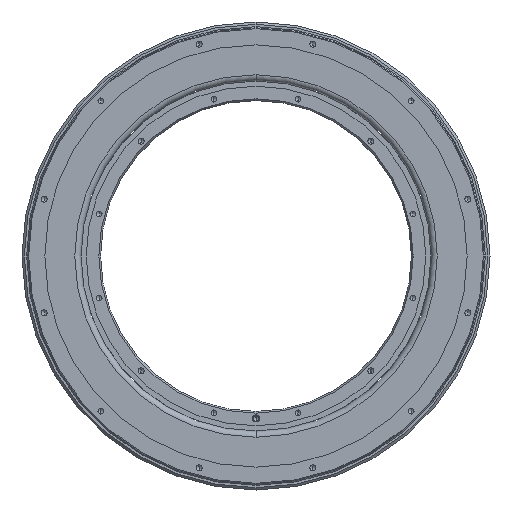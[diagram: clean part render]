
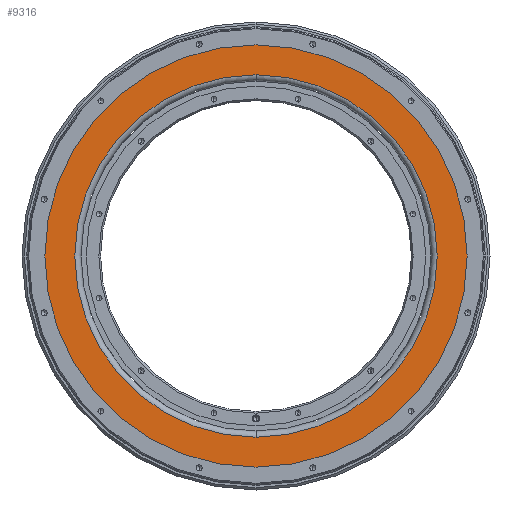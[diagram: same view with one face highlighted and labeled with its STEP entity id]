
A CAD part, front view. The second image highlights one B-rep face of the part: STEP entity #9316.
In plain terms, the highlighted planar face has unit normal (0, -1, 0).
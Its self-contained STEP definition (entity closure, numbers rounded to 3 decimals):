
#18 = CARTESIAN_POINT ( 'NONE',  ( -180., 3., 0. ) ) ;
#218 = EDGE_LOOP ( 'NONE', ( #8005, #7068 ) ) ;
#273 = EDGE_CURVE ( 'NONE', #4687, #936, #8484, .T. ) ;
#323 = DIRECTION ( 'NONE',  ( 0., 0., 1. ) ) ;
#350 = CARTESIAN_POINT ( 'NONE',  ( 0., 3., 0. ) ) ;
#728 = ORIENTED_EDGE ( 'NONE', *, *, #3459, .T. ) ;
#936 = VERTEX_POINT ( 'NONE', #994 ) ;
#994 = CARTESIAN_POINT ( 'NONE',  ( 0., 3., -180. ) ) ;
#1471 = CARTESIAN_POINT ( 'NONE',  ( 0., 3., -154.5 ) ) ;
#1827 = EDGE_CURVE ( 'NONE', #4920, #8810, #6926, .T. ) ;
#2039 = EDGE_LOOP ( 'NONE', ( #728, #8305 ) ) ;
#2217 = CIRCLE ( 'NONE', #7129, 154.5 ) ;
#2637 = CARTESIAN_POINT ( 'NONE',  ( 0., 3., 0. ) ) ;
#2671 = DIRECTION ( 'NONE',  ( 0., -1., 0. ) ) ;
#3459 = EDGE_CURVE ( 'NONE', #936, #4687, #7703, .T. ) ;
#3710 = AXIS2_PLACEMENT_3D ( 'NONE', #9392, #6480, #7919 ) ;
#4148 = FACE_BOUND ( 'NONE', #218, .T. ) ;
#4480 = PLANE ( 'NONE',  #8285 ) ;
#4687 = VERTEX_POINT ( 'NONE', #5493 ) ;
#4767 = DIRECTION ( 'NONE',  ( 0., 0., -1. ) ) ;
#4920 = VERTEX_POINT ( 'NONE', #1471 ) ;
#5177 = CARTESIAN_POINT ( 'NONE',  ( 0., 3., 154.5 ) ) ;
#5195 = DIRECTION ( 'NONE',  ( 0., 1., 0. ) ) ;
#5493 = CARTESIAN_POINT ( 'NONE',  ( 0., 3., 180. ) ) ;
#5735 = AXIS2_PLACEMENT_3D ( 'NONE', #2637, #2671, #4767 ) ;
#6080 = CARTESIAN_POINT ( 'NONE',  ( 0., 3., 0. ) ) ;
#6086 = FACE_OUTER_BOUND ( 'NONE', #2039, .T. ) ;
#6480 = DIRECTION ( 'NONE',  ( 0., -1., 0. ) ) ;
#6926 = CIRCLE ( 'NONE', #9442, 154.5 ) ;
#7068 = ORIENTED_EDGE ( 'NONE', *, *, #1827, .T. ) ;
#7129 = AXIS2_PLACEMENT_3D ( 'NONE', #6080, #8231, #9093 ) ;
#7607 = DIRECTION ( 'NONE',  ( 0., 1., 0. ) ) ;
#7703 = CIRCLE ( 'NONE', #5735, 180. ) ;
#7919 = DIRECTION ( 'NONE',  ( 0., 0., -1. ) ) ;
#8005 = ORIENTED_EDGE ( 'NONE', *, *, #9008, .T. ) ;
#8231 = DIRECTION ( 'NONE',  ( 0., 1., 0. ) ) ;
#8285 = AXIS2_PLACEMENT_3D ( 'NONE', #18, #5195, #9435 ) ;
#8305 = ORIENTED_EDGE ( 'NONE', *, *, #273, .T. ) ;
#8484 = CIRCLE ( 'NONE', #3710, 180. ) ;
#8810 = VERTEX_POINT ( 'NONE', #5177 ) ;
#9008 = EDGE_CURVE ( 'NONE', #8810, #4920, #2217, .T. ) ;
#9093 = DIRECTION ( 'NONE',  ( 0., 0., 1. ) ) ;
#9316 = ADVANCED_FACE ( 'NONE', ( #4148, #6086 ), #4480, .F. ) ;
#9392 = CARTESIAN_POINT ( 'NONE',  ( 0., 3., 0. ) ) ;
#9435 = DIRECTION ( 'NONE',  ( 0., 0., 1. ) ) ;
#9442 = AXIS2_PLACEMENT_3D ( 'NONE', #350, #7607, #323 ) ;
